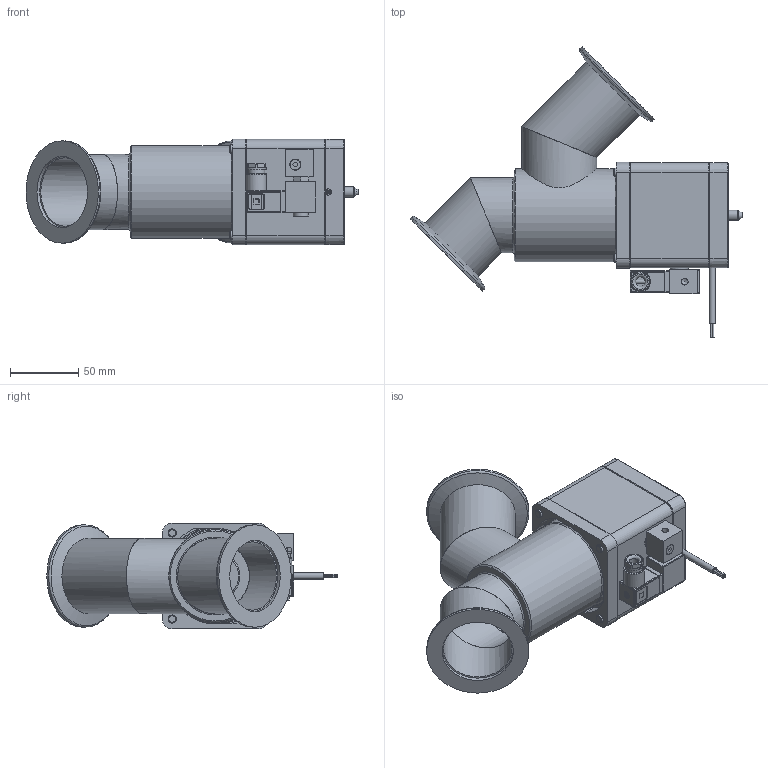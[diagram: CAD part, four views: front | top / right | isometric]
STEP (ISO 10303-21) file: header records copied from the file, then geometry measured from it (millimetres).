
FILE_DESCRIPTION(/* description */ (''),/* implementation_level */ '2;1');
FILE_NAME(/* name */ '1487800192_203.stp',/* time_stamp */ '2013-07-02T07:21:46+02:00',/* author */ (''),/* organization */ (''),/* preprocessor_version */ 'ST-DEVELOPER v11',/* originating_system */ 'SIEMENS PLM Software NX 7.5',/* authorisation */ '');
FILE_SCHEMA (('AP203_CONFIGURATION_CONTROLLED_3D_DESIGN_OF_MECHANICAL_PARTS_AND_ASSEMBLIES_MIM_LF'));
Length unit declared in the file: millimetre
Products named in the file (21): 467882; 437235; 238513.2; 238512.3; 236208.2; 245150; 239888_6.1; 236204_1.1; 379203; 252497.8; 379229; 379196; 379192; 256526.3; 258606.1; 224820.2; n-8501-400.2_MODELNX-ARRAGMNTArrangement 1; 235683.15_NX-ARRAGMNTZUSAMMENST1; 245321.7_NX-ARRAGMNTLAGEMELDERZEICHNUNG; 379209; 540772
Assembly tree (25 placements, depth 3):
  540772
    379209
      379192
      379196
      379229
      252497.8
      379203
    245321.7_NX-ARRAGMNTLAGEMELDERZEICHNUNG
      236204_1.1  x2
      239888_6.1
      245150
      236208.2  x2
    224820.2  x4
    235683.15_NX-ARRAGMNTZUSAMMENST1
      238512.3
      238513.2
    n-8501-400.2_MODELNX-ARRAGMNTArrangement 1
      437235
      467882
    258606.1
    256526.3
Bounding box: 242.94 x 212.49 x 77.4 mm (x, y, z)
Volume: 416879.7 mm3; surface area: 213627.4 mm2
Topology: 30 solids, 30 shells, 923 faces, 2246 edges, 1456 vertices
Faces by surface type: plane 566, cylinder 189, cone 125, bspline 24, torus 12, sphere 7
Full cylindrical faces by diameter (mm): 1.4 x8, 2 x7, 2.2 x4, 2.5 x5, 2.8 x1, 2.95 x1, 3 x5, 4.2 x1, 4.22 x1, 4.6 x2, 4.7 x2, 4.96 x4, 5 x8, 5.5 x1, 5.6 x2, 6 x12, 6.6 x4, 7.4 x2, 7.6 x1, 7.9 x1, 8 x3, 8.175 x1, 9.1 x1, 10 x5, 10.2 x1, 11.3 x1, 11.4 x1, 11.5 x1, 11.975 x3, 12.015 x2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
Entity records: 28388 total; most frequent: CARTESIAN_POINT 5798, DIRECTION 3800, ORIENTED_EDGE 3580, EDGE_CURVE 1790, AXIS2_PLACEMENT_3D 1356, VERTEX_POINT 1269, EDGE_LOOP 1127, LINE 1088
